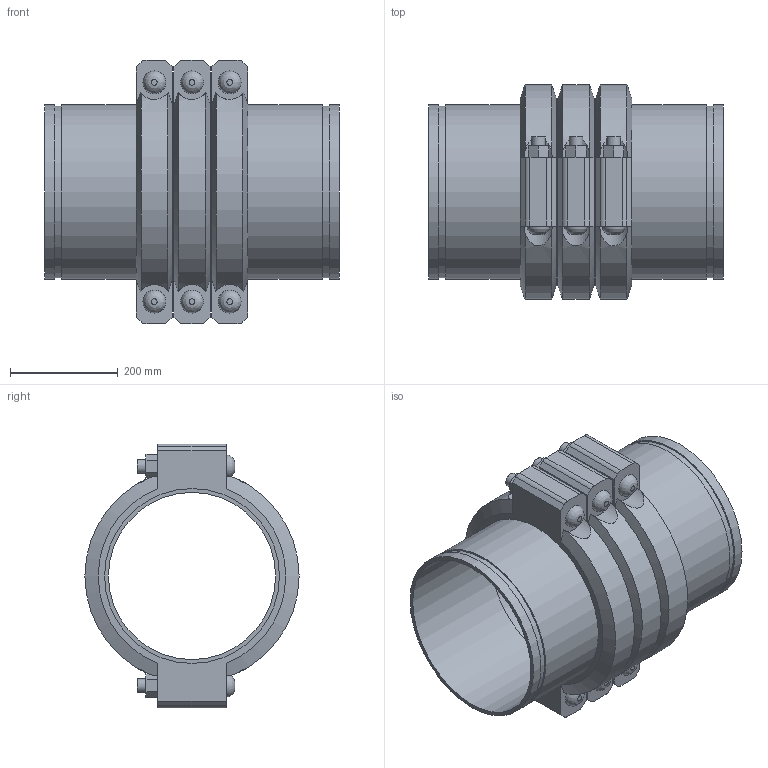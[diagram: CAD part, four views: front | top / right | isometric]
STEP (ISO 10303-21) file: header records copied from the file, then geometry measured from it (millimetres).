
FILE_DESCRIPTION(/* description */ ('VIC SS EXPANSION JOINT 3 COUPLINGS COMPRESSED STYLE 155P (OGS) (POTABLE WATER) ','CAx-IF Rec.Pracs.---Representation and Presentation of Product Manufacturing Information (PMI)---4.0---2014-10-13'),/* implementation_level */ '2;1');
FILE_NAME(/* name */ 'C:\Users\kkamble\AppData\Roaming\Autodesk\ApplicationPlugins\Victaulic.Temp\A254\Victaulic_SS_Expansion Joint_Compressed_3 Couplings_Style 155P (OGS)-Potable Water_3 Coup_Comp_12 (300).stp',/* time_stamp */ '2021-07-16T17:11:10+06:00',/* author */ ('kkamble'),/* organization */ ('Victaulic'),/* preprocessor_version */ 'ST-DEVELOPER v17.2',/* originating_system */ 'Autodesk Inventor 2019',/* authorisation */ '');
FILE_SCHEMA (('AP242_MANAGED_MODEL_BASED_3D_ENGINEERING_MIM_LF { 1 0 10303 442 1 1 4 }'));
Length unit declared in the file: inch
Products named in the file (4): 155P-12.0; Nipple-12.0; Nipple-12.0_1; 077-12.0
Assembly tree (7 placements, depth 2):
  155P-12.0
    Nipple-12.0  x2
    Nipple-12.0_1  x2
    077-12.0  x3
Bounding box: 546.1 x 397 x 488.95 mm (x, y, z)
Volume: 13760249.5 mm3; surface area: 2120038 mm2
Topology: 7 solids, 13 shells, 219 faces, 537 edges, 378 vertices
Faces by surface type: plane 126, cylinder 75, cone 12, bspline 6
Full cylindrical faces by diameter (mm): 25.4 x12, 27.432 x6, 309.677 x4, 318.287 x8, 323.85 x15
Entity records: 2913 total; most frequent: CARTESIAN_POINT 641, DIRECTION 451, ORIENTED_EDGE 398, EDGE_CURVE 199, AXIS2_PLACEMENT_3D 182, VERTEX_POINT 142, EDGE_LOOP 105, CIRCLE 92
